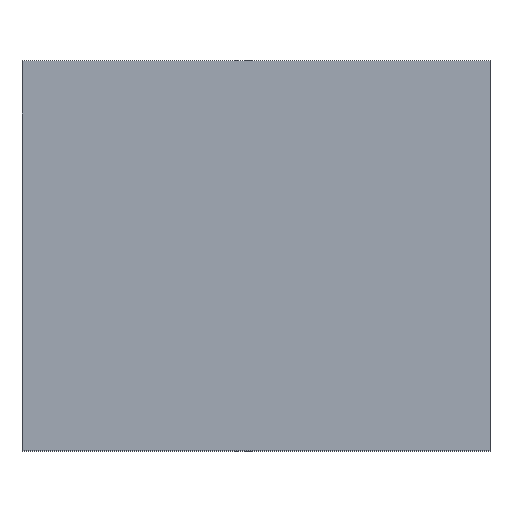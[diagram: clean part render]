
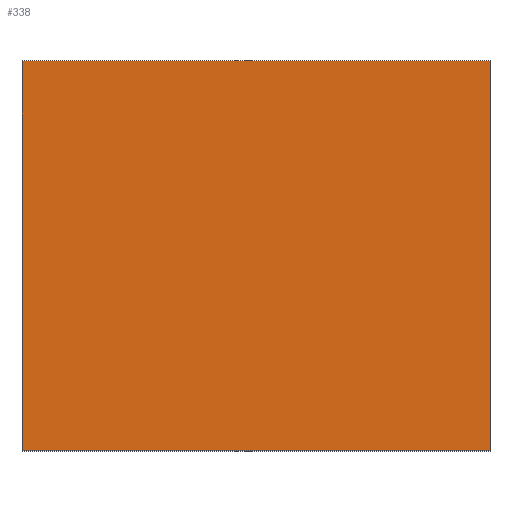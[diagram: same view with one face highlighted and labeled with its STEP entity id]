
A CAD part, top view. The second image highlights one B-rep face of the part: STEP entity #338.
In plain terms, the highlighted planar face has unit normal (0, 0, 1).
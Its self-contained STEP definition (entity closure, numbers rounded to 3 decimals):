
#24 = VERTEX_POINT('',#25);
#25 = CARTESIAN_POINT('',(0.,0.,4.));
#32 = PLANE('',#33);
#33 = AXIS2_PLACEMENT_3D('',#34,#35,#36);
#34 = CARTESIAN_POINT('',(0.,0.,0.));
#35 = DIRECTION('',(1.,0.,-0.));
#36 = DIRECTION('',(0.,0.,1.));
#44 = PLANE('',#45);
#45 = AXIS2_PLACEMENT_3D('',#46,#47,#48);
#46 = CARTESIAN_POINT('',(0.,0.,0.));
#47 = DIRECTION('',(-0.,1.,0.));
#48 = DIRECTION('',(0.,0.,1.));
#85 = VERTEX_POINT('',#86);
#86 = CARTESIAN_POINT('',(0.,10.,4.));
#100 = PLANE('',#101);
#101 = AXIS2_PLACEMENT_3D('',#102,#103,#104);
#102 = CARTESIAN_POINT('',(0.,10.,0.));
#103 = DIRECTION('',(-0.,1.,0.));
#104 = DIRECTION('',(0.,0.,1.));
#112 = EDGE_CURVE('',#24,#85,#113,.T.);
#113 = SURFACE_CURVE('',#114,(#118,#125),.PCURVE_S1.);
#114 = LINE('',#115,#116);
#115 = CARTESIAN_POINT('',(0.,0.,4.));
#116 = VECTOR('',#117,1.);
#117 = DIRECTION('',(-0.,1.,0.));
#118 = PCURVE('',#32,#119);
#119 = DEFINITIONAL_REPRESENTATION('',(#120),#124);
#120 = LINE('',#121,#122);
#121 = CARTESIAN_POINT('',(4.,0.));
#122 = VECTOR('',#123,1.);
#123 = DIRECTION('',(0.,-1.));
#124 = ( GEOMETRIC_REPRESENTATION_CONTEXT(2) 
PARAMETRIC_REPRESENTATION_CONTEXT() REPRESENTATION_CONTEXT('2D SPACE',''
  ) );
#125 = PCURVE('',#126,#131);
#126 = PLANE('',#127);
#127 = AXIS2_PLACEMENT_3D('',#128,#129,#130);
#128 = CARTESIAN_POINT('',(0.,0.,4.));
#129 = DIRECTION('',(0.,0.,1.));
#130 = DIRECTION('',(1.,0.,-0.));
#131 = DEFINITIONAL_REPRESENTATION('',(#132),#136);
#132 = LINE('',#133,#134);
#133 = CARTESIAN_POINT('',(0.,0.));
#134 = VECTOR('',#135,1.);
#135 = DIRECTION('',(0.,1.));
#136 = ( GEOMETRIC_REPRESENTATION_CONTEXT(2) 
PARAMETRIC_REPRESENTATION_CONTEXT() REPRESENTATION_CONTEXT('2D SPACE',''
  ) );
#144 = VERTEX_POINT('',#145);
#145 = CARTESIAN_POINT('',(12.,0.,4.));
#152 = PLANE('',#153);
#153 = AXIS2_PLACEMENT_3D('',#154,#155,#156);
#154 = CARTESIAN_POINT('',(12.,0.,0.));
#155 = DIRECTION('',(1.,0.,-0.));
#156 = DIRECTION('',(0.,0.,1.));
#195 = VERTEX_POINT('',#196);
#196 = CARTESIAN_POINT('',(12.,10.,4.));
#217 = EDGE_CURVE('',#144,#195,#218,.T.);
#218 = SURFACE_CURVE('',#219,(#223,#230),.PCURVE_S1.);
#219 = LINE('',#220,#221);
#220 = CARTESIAN_POINT('',(12.,0.,4.));
#221 = VECTOR('',#222,1.);
#222 = DIRECTION('',(-0.,1.,0.));
#223 = PCURVE('',#152,#224);
#224 = DEFINITIONAL_REPRESENTATION('',(#225),#229);
#225 = LINE('',#226,#227);
#226 = CARTESIAN_POINT('',(4.,0.));
#227 = VECTOR('',#228,1.);
#228 = DIRECTION('',(0.,-1.));
#229 = ( GEOMETRIC_REPRESENTATION_CONTEXT(2) 
PARAMETRIC_REPRESENTATION_CONTEXT() REPRESENTATION_CONTEXT('2D SPACE',''
  ) );
#230 = PCURVE('',#126,#231);
#231 = DEFINITIONAL_REPRESENTATION('',(#232),#236);
#232 = LINE('',#233,#234);
#233 = CARTESIAN_POINT('',(12.,0.));
#234 = VECTOR('',#235,1.);
#235 = DIRECTION('',(0.,1.));
#236 = ( GEOMETRIC_REPRESENTATION_CONTEXT(2) 
PARAMETRIC_REPRESENTATION_CONTEXT() REPRESENTATION_CONTEXT('2D SPACE',''
  ) );
#263 = EDGE_CURVE('',#24,#144,#264,.T.);
#264 = SURFACE_CURVE('',#265,(#269,#276),.PCURVE_S1.);
#265 = LINE('',#266,#267);
#266 = CARTESIAN_POINT('',(0.,0.,4.));
#267 = VECTOR('',#268,1.);
#268 = DIRECTION('',(1.,0.,-0.));
#269 = PCURVE('',#44,#270);
#270 = DEFINITIONAL_REPRESENTATION('',(#271),#275);
#271 = LINE('',#272,#273);
#272 = CARTESIAN_POINT('',(4.,0.));
#273 = VECTOR('',#274,1.);
#274 = DIRECTION('',(0.,1.));
#275 = ( GEOMETRIC_REPRESENTATION_CONTEXT(2) 
PARAMETRIC_REPRESENTATION_CONTEXT() REPRESENTATION_CONTEXT('2D SPACE',''
  ) );
#276 = PCURVE('',#126,#277);
#277 = DEFINITIONAL_REPRESENTATION('',(#278),#282);
#278 = LINE('',#279,#280);
#279 = CARTESIAN_POINT('',(0.,0.));
#280 = VECTOR('',#281,1.);
#281 = DIRECTION('',(1.,0.));
#282 = ( GEOMETRIC_REPRESENTATION_CONTEXT(2) 
PARAMETRIC_REPRESENTATION_CONTEXT() REPRESENTATION_CONTEXT('2D SPACE',''
  ) );
#310 = EDGE_CURVE('',#85,#195,#311,.T.);
#311 = SURFACE_CURVE('',#312,(#316,#323),.PCURVE_S1.);
#312 = LINE('',#313,#314);
#313 = CARTESIAN_POINT('',(0.,10.,4.));
#314 = VECTOR('',#315,1.);
#315 = DIRECTION('',(1.,0.,-0.));
#316 = PCURVE('',#100,#317);
#317 = DEFINITIONAL_REPRESENTATION('',(#318),#322);
#318 = LINE('',#319,#320);
#319 = CARTESIAN_POINT('',(4.,0.));
#320 = VECTOR('',#321,1.);
#321 = DIRECTION('',(0.,1.));
#322 = ( GEOMETRIC_REPRESENTATION_CONTEXT(2) 
PARAMETRIC_REPRESENTATION_CONTEXT() REPRESENTATION_CONTEXT('2D SPACE',''
  ) );
#323 = PCURVE('',#126,#324);
#324 = DEFINITIONAL_REPRESENTATION('',(#325),#329);
#325 = LINE('',#326,#327);
#326 = CARTESIAN_POINT('',(0.,10.));
#327 = VECTOR('',#328,1.);
#328 = DIRECTION('',(1.,0.));
#329 = ( GEOMETRIC_REPRESENTATION_CONTEXT(2) 
PARAMETRIC_REPRESENTATION_CONTEXT() REPRESENTATION_CONTEXT('2D SPACE',''
  ) );
#338 = ADVANCED_FACE('',(#339),#126,.T.);
#339 = FACE_BOUND('',#340,.T.);
#340 = EDGE_LOOP('',(#341,#342,#343,#344));
#341 = ORIENTED_EDGE('',*,*,#112,.F.);
#342 = ORIENTED_EDGE('',*,*,#263,.T.);
#343 = ORIENTED_EDGE('',*,*,#217,.T.);
#344 = ORIENTED_EDGE('',*,*,#310,.F.);
